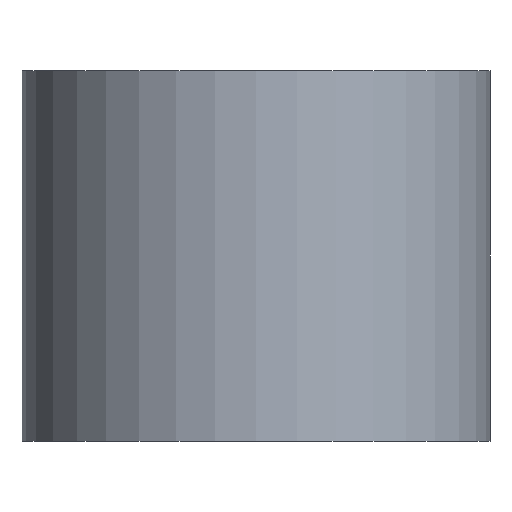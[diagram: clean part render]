
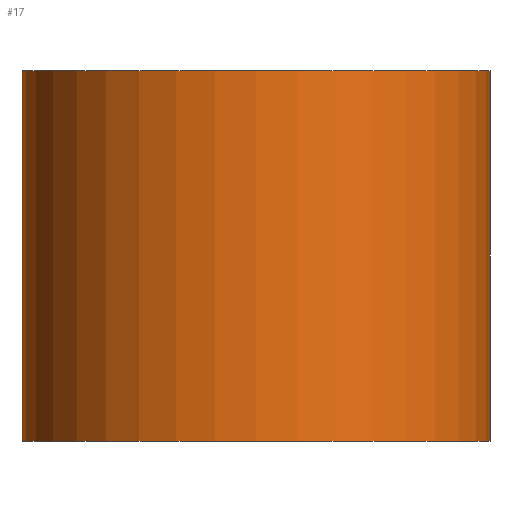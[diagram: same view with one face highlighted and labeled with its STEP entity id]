
A CAD part, front view. The second image highlights one B-rep face of the part: STEP entity #17.
In plain terms, the highlighted cylindrical face has radius 24 mm (diameter 48 mm), a full revolution.
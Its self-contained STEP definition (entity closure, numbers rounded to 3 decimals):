
#17 = ADVANCED_FACE('',(#18),#31,.T.);
#18 = FACE_BOUND('',#19,.T.);
#19 = EDGE_LOOP('',(#20,#54,#77,#104));
#20 = ORIENTED_EDGE('',*,*,#21,.F.);
#21 = EDGE_CURVE('',#22,#22,#24,.T.);
#22 = VERTEX_POINT('',#23);
#23 = CARTESIAN_POINT('',(-181.,-265.913,-29.));
#24 = SURFACE_CURVE('',#25,(#30,#42),.PCURVE_S1.);
#25 = CIRCLE('',#26,24.);
#26 = AXIS2_PLACEMENT_3D('',#27,#28,#29);
#27 = CARTESIAN_POINT('',(-205.,-265.913,-29.));
#28 = DIRECTION('',(0.,0.,1.));
#29 = DIRECTION('',(1.,0.,-0.));
#30 = PCURVE('',#31,#36);
#31 = CYLINDRICAL_SURFACE('',#32,24.);
#32 = AXIS2_PLACEMENT_3D('',#33,#34,#35);
#33 = CARTESIAN_POINT('',(-205.,-265.913,-67.));
#34 = DIRECTION('',(0.,0.,1.));
#35 = DIRECTION('',(1.,0.,-0.));
#36 = DEFINITIONAL_REPRESENTATION('',(#37),#41);
#37 = LINE('',#38,#39);
#38 = CARTESIAN_POINT('',(0.,38.));
#39 = VECTOR('',#40,1.);
#40 = DIRECTION('',(1.,0.));
#41 = ( GEOMETRIC_REPRESENTATION_CONTEXT(2) 
PARAMETRIC_REPRESENTATION_CONTEXT() REPRESENTATION_CONTEXT('2D SPACE',''
  ) );
#42 = PCURVE('',#43,#48);
#43 = PLANE('',#44);
#44 = AXIS2_PLACEMENT_3D('',#45,#46,#47);
#45 = CARTESIAN_POINT('',(-205.,-265.913,-29.));
#46 = DIRECTION('',(0.,0.,1.));
#47 = DIRECTION('',(1.,0.,-0.));
#48 = DEFINITIONAL_REPRESENTATION('',(#49),#53);
#49 = CIRCLE('',#50,24.);
#50 = AXIS2_PLACEMENT_2D('',#51,#52);
#51 = CARTESIAN_POINT('',(0.,0.));
#52 = DIRECTION('',(1.,0.));
#53 = ( GEOMETRIC_REPRESENTATION_CONTEXT(2) 
PARAMETRIC_REPRESENTATION_CONTEXT() REPRESENTATION_CONTEXT('2D SPACE',''
  ) );
#54 = ORIENTED_EDGE('',*,*,#55,.F.);
#55 = EDGE_CURVE('',#56,#22,#58,.T.);
#56 = VERTEX_POINT('',#57);
#57 = CARTESIAN_POINT('',(-181.,-265.913,-67.));
#58 = SEAM_CURVE('',#59,(#63,#70),.PCURVE_S1.);
#59 = LINE('',#60,#61);
#60 = CARTESIAN_POINT('',(-181.,-265.913,-67.));
#61 = VECTOR('',#62,1.);
#62 = DIRECTION('',(0.,0.,1.));
#63 = PCURVE('',#31,#64);
#64 = DEFINITIONAL_REPRESENTATION('',(#65),#69);
#65 = LINE('',#66,#67);
#66 = CARTESIAN_POINT('',(6.283,-0.));
#67 = VECTOR('',#68,1.);
#68 = DIRECTION('',(0.,1.));
#69 = ( GEOMETRIC_REPRESENTATION_CONTEXT(2) 
PARAMETRIC_REPRESENTATION_CONTEXT() REPRESENTATION_CONTEXT('2D SPACE',''
  ) );
#70 = PCURVE('',#31,#71);
#71 = DEFINITIONAL_REPRESENTATION('',(#72),#76);
#72 = LINE('',#73,#74);
#73 = CARTESIAN_POINT('',(0.,-0.));
#74 = VECTOR('',#75,1.);
#75 = DIRECTION('',(0.,1.));
#76 = ( GEOMETRIC_REPRESENTATION_CONTEXT(2) 
PARAMETRIC_REPRESENTATION_CONTEXT() REPRESENTATION_CONTEXT('2D SPACE',''
  ) );
#77 = ORIENTED_EDGE('',*,*,#78,.T.);
#78 = EDGE_CURVE('',#56,#56,#79,.T.);
#79 = SURFACE_CURVE('',#80,(#85,#92),.PCURVE_S1.);
#80 = CIRCLE('',#81,24.);
#81 = AXIS2_PLACEMENT_3D('',#82,#83,#84);
#82 = CARTESIAN_POINT('',(-205.,-265.913,-67.));
#83 = DIRECTION('',(0.,0.,1.));
#84 = DIRECTION('',(1.,0.,-0.));
#85 = PCURVE('',#31,#86);
#86 = DEFINITIONAL_REPRESENTATION('',(#87),#91);
#87 = LINE('',#88,#89);
#88 = CARTESIAN_POINT('',(0.,0.));
#89 = VECTOR('',#90,1.);
#90 = DIRECTION('',(1.,0.));
#91 = ( GEOMETRIC_REPRESENTATION_CONTEXT(2) 
PARAMETRIC_REPRESENTATION_CONTEXT() REPRESENTATION_CONTEXT('2D SPACE',''
  ) );
#92 = PCURVE('',#93,#98);
#93 = PLANE('',#94);
#94 = AXIS2_PLACEMENT_3D('',#95,#96,#97);
#95 = CARTESIAN_POINT('',(-205.,-265.913,-67.));
#96 = DIRECTION('',(0.,0.,1.));
#97 = DIRECTION('',(1.,0.,-0.));
#98 = DEFINITIONAL_REPRESENTATION('',(#99),#103);
#99 = CIRCLE('',#100,24.);
#100 = AXIS2_PLACEMENT_2D('',#101,#102);
#101 = CARTESIAN_POINT('',(0.,0.));
#102 = DIRECTION('',(1.,0.));
#103 = ( GEOMETRIC_REPRESENTATION_CONTEXT(2) 
PARAMETRIC_REPRESENTATION_CONTEXT() REPRESENTATION_CONTEXT('2D SPACE',''
  ) );
#104 = ORIENTED_EDGE('',*,*,#55,.T.);
